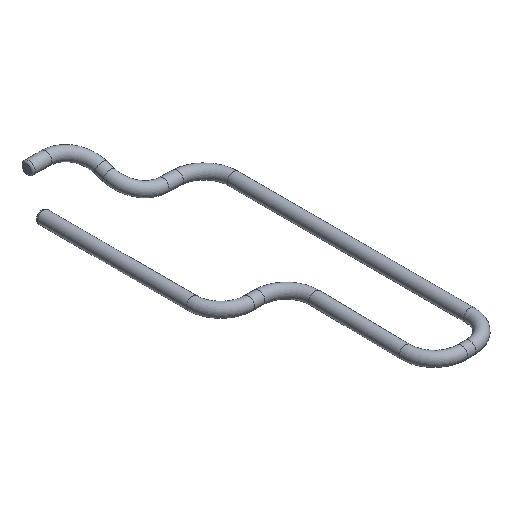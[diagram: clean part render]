
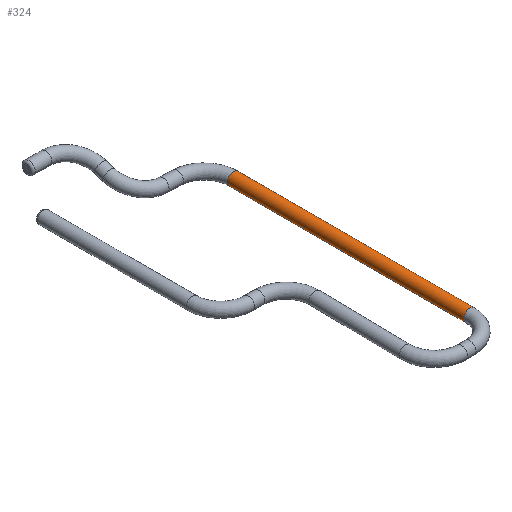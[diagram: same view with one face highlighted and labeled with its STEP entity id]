
A CAD part, isometric view. The second image highlights one B-rep face of the part: STEP entity #324.
In plain terms, the highlighted cylindrical face has radius 1.085 mm (diameter 2.17 mm), a full revolution.
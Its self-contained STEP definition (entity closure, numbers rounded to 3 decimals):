
#324 = ADVANCED_FACE('',(#325),#339,.T.);
#325 = FACE_BOUND('',#326,.T.);
#326 = EDGE_LOOP('',(#327,#356,#382,#383));
#327 = ORIENTED_EDGE('',*,*,#328,.T.);
#328 = EDGE_CURVE('',#329,#331,#333,.T.);
#329 = VERTEX_POINT('',#330);
#330 = CARTESIAN_POINT('',(31.5,-39.096,-22.085));
#331 = VERTEX_POINT('',#332);
#332 = CARTESIAN_POINT('',(31.5,3.,-22.085));
#333 = SEAM_CURVE('',#334,(#338,#350),.PCURVE_S1.);
#334 = LINE('',#335,#336);
#335 = CARTESIAN_POINT('',(31.5,-39.096,-22.085));
#336 = VECTOR('',#337,1.);
#337 = DIRECTION('',(0.,1.,0.));
#338 = PCURVE('',#339,#344);
#339 = CYLINDRICAL_SURFACE('',#340,1.085);
#340 = AXIS2_PLACEMENT_3D('',#341,#342,#343);
#341 = CARTESIAN_POINT('',(31.5,-39.096,-21.));
#342 = DIRECTION('',(0.,1.,0.));
#343 = DIRECTION('',(0.,0.,-1.));
#344 = DEFINITIONAL_REPRESENTATION('',(#345),#349);
#345 = LINE('',#346,#347);
#346 = CARTESIAN_POINT('',(6.283,0.));
#347 = VECTOR('',#348,1.);
#348 = DIRECTION('',(0.,1.));
#349 = ( GEOMETRIC_REPRESENTATION_CONTEXT(2) 
PARAMETRIC_REPRESENTATION_CONTEXT() REPRESENTATION_CONTEXT('2D SPACE',''
  ) );
#350 = PCURVE('',#339,#351);
#351 = DEFINITIONAL_REPRESENTATION('',(#352),#355);
#352 = B_SPLINE_CURVE_WITH_KNOTS('',1,(#353,#354),.UNSPECIFIED.,.F.,.F.,
  (2,2),(0.,42.096),.PIECEWISE_BEZIER_KNOTS.);
#353 = CARTESIAN_POINT('',(0.,0.));
#354 = CARTESIAN_POINT('',(0.,42.096));
#355 = ( GEOMETRIC_REPRESENTATION_CONTEXT(2) 
PARAMETRIC_REPRESENTATION_CONTEXT() REPRESENTATION_CONTEXT('2D SPACE',''
  ) );
#356 = ORIENTED_EDGE('',*,*,#357,.F.);
#357 = EDGE_CURVE('',#331,#331,#358,.T.);
#358 = SURFACE_CURVE('',#359,(#364,#371),.PCURVE_S1.);
#359 = CIRCLE('',#360,1.085);
#360 = AXIS2_PLACEMENT_3D('',#361,#362,#363);
#361 = CARTESIAN_POINT('',(31.5,3.,-21.));
#362 = DIRECTION('',(0.,1.,0.));
#363 = DIRECTION('',(0.,0.,-1.));
#364 = PCURVE('',#339,#365);
#365 = DEFINITIONAL_REPRESENTATION('',(#366),#370);
#366 = LINE('',#367,#368);
#367 = CARTESIAN_POINT('',(0.,42.096));
#368 = VECTOR('',#369,1.);
#369 = DIRECTION('',(1.,0.));
#370 = ( GEOMETRIC_REPRESENTATION_CONTEXT(2) 
PARAMETRIC_REPRESENTATION_CONTEXT() REPRESENTATION_CONTEXT('2D SPACE',''
  ) );
#371 = PCURVE('',#372,#377);
#372 = TOROIDAL_SURFACE('',#373,5.,1.085);
#373 = AXIS2_PLACEMENT_3D('',#374,#375,#376);
#374 = CARTESIAN_POINT('',(26.503,3.,-20.82));
#375 = DIRECTION('',(0.036,0.,
    0.999));
#376 = DIRECTION('',(0.999,0.,
    -0.036));
#377 = DEFINITIONAL_REPRESENTATION('',(#378),#381);
#378 = B_SPLINE_CURVE_WITH_KNOTS('',1,(#379,#380),.UNSPECIFIED.,.F.,.F.,
  (2,2),(0.,6.283),.PIECEWISE_BEZIER_KNOTS.);
#379 = CARTESIAN_POINT('',(0.,4.748));
#380 = CARTESIAN_POINT('',(0.,-1.535));
#381 = ( GEOMETRIC_REPRESENTATION_CONTEXT(2) 
PARAMETRIC_REPRESENTATION_CONTEXT() REPRESENTATION_CONTEXT('2D SPACE',''
  ) );
#382 = ORIENTED_EDGE('',*,*,#328,.F.);
#383 = ORIENTED_EDGE('',*,*,#384,.F.);
#384 = EDGE_CURVE('',#329,#329,#385,.T.);
#385 = SURFACE_CURVE('',#386,(#391,#397),.PCURVE_S1.);
#386 = CIRCLE('',#387,1.085);
#387 = AXIS2_PLACEMENT_3D('',#388,#389,#390);
#388 = CARTESIAN_POINT('',(31.5,-39.096,-21.));
#389 = DIRECTION('',(0.,-1.,0.));
#390 = DIRECTION('',(1.,0.,0.));
#391 = PCURVE('',#339,#392);
#392 = DEFINITIONAL_REPRESENTATION('',(#393),#396);
#393 = B_SPLINE_CURVE_WITH_KNOTS('',1,(#394,#395),.UNSPECIFIED.,.F.,.F.,
  (2,2),(4.712,10.996),.PIECEWISE_BEZIER_KNOTS.);
#394 = CARTESIAN_POINT('',(6.283,0.));
#395 = CARTESIAN_POINT('',(0.,0.));
#396 = ( GEOMETRIC_REPRESENTATION_CONTEXT(2) 
PARAMETRIC_REPRESENTATION_CONTEXT() REPRESENTATION_CONTEXT('2D SPACE',''
  ) );
#397 = PCURVE('',#398,#403);
#398 = TOROIDAL_SURFACE('',#399,5.,1.085);
#399 = AXIS2_PLACEMENT_3D('',#400,#401,#402);
#400 = CARTESIAN_POINT('',(26.5,-39.096,-21.));
#401 = DIRECTION('',(-0.,0.,1.));
#402 = DIRECTION('',(0.,-1.,0.));
#403 = DEFINITIONAL_REPRESENTATION('',(#404),#408);
#404 = LINE('',#405,#406);
#405 = CARTESIAN_POINT('',(1.571,-6.283));
#406 = VECTOR('',#407,1.);
#407 = DIRECTION('',(0.,1.));
#408 = ( GEOMETRIC_REPRESENTATION_CONTEXT(2) 
PARAMETRIC_REPRESENTATION_CONTEXT() REPRESENTATION_CONTEXT('2D SPACE',''
  ) );
